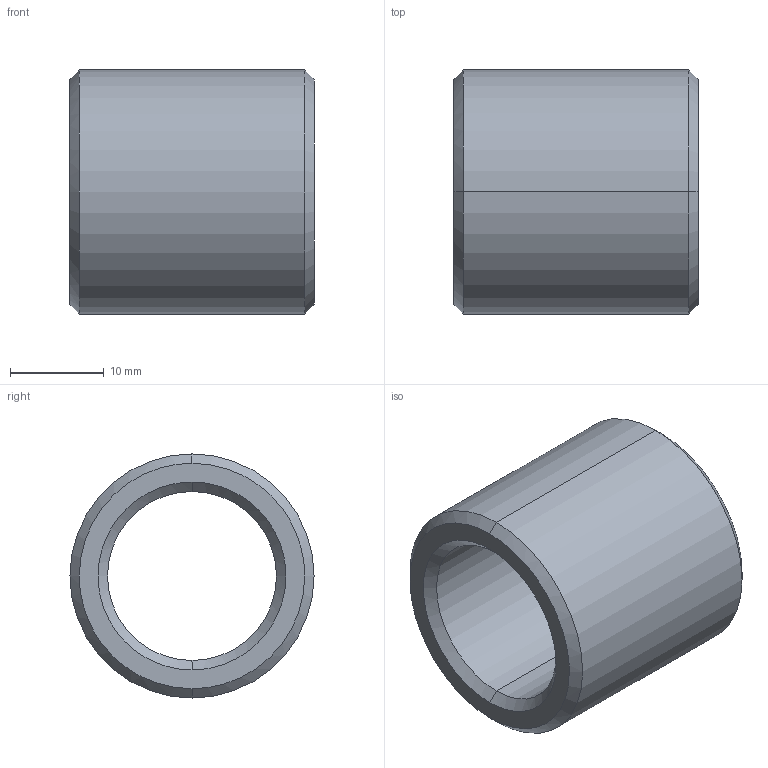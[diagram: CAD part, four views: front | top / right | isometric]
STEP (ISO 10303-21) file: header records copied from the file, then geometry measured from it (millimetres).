
FILE_DESCRIPTION(('CATIA V5 STEP Exchange'),'2;1');
FILE_NAME('C:\Users\Utente\Desktop\IO LAVORO\3D X SITO CF\X SITO\PLASTICA\352\352-18X26.stp','2021-04-12T15:41:55+00:00',('none'),('none'),'CATIA Version 5 Release 20 GA (IN-10)','CATIA V5 STEP AP203','none');
FILE_SCHEMA(('CONFIG_CONTROL_DESIGN'));
Length unit declared in the file: millimetre
Products named in the file (1): 352-18X26
Bounding box: 26 x 26 x 26 mm (x, y, z)
Volume: 7066.6 mm3; surface area: 3993 mm2
Topology: 1 solids, 1 shells, 14 faces, 44 edges, 32 vertices
Faces by surface type: cone 6, cylinder 4, plane 2, torus 2
Entity records: 634 total; most frequent: CARTESIAN_POINT 203, ORIENTED_EDGE 88, DIRECTION 64, EDGE_CURVE 44, AXIS2_PLACEMENT_3D 41, VERTEX_POINT 32, CIRCLE 26, EDGE_LOOP 16
